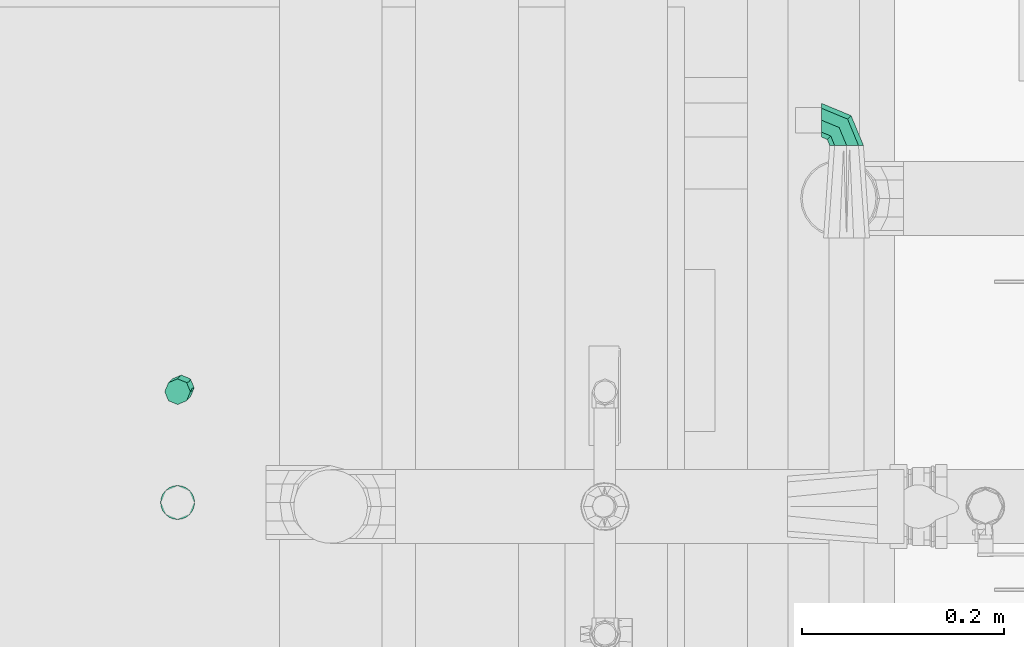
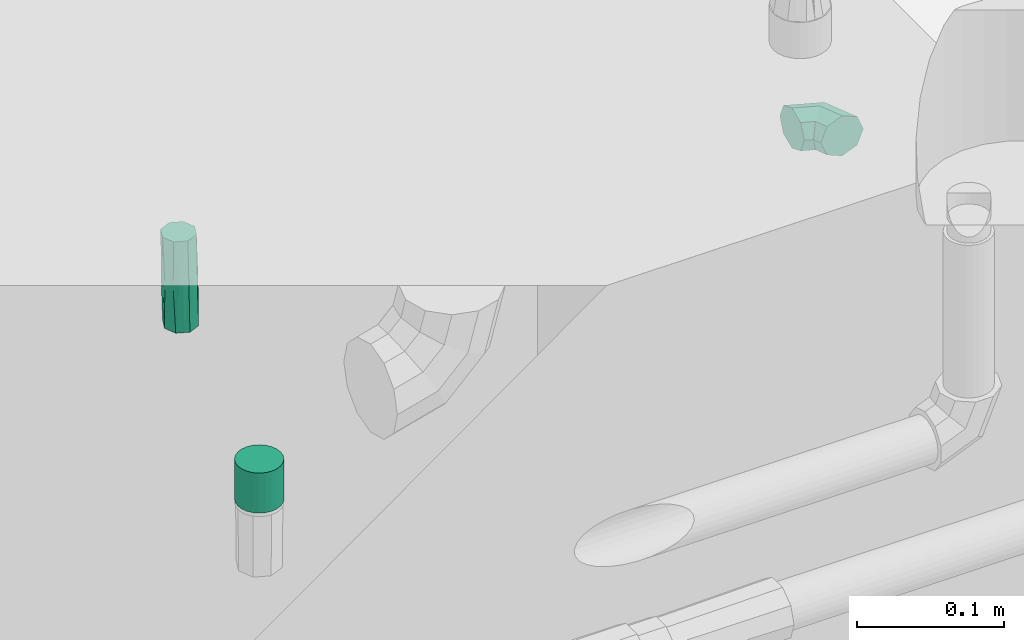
# One storey, part 37 of 43: 3 flow fittings.
"""IFC2X3 building model written with IfcOpenShell, lengths in millimetres."""

import ifcopenshell
import ifcopenshell.guid

model = None  # the IFC model being written
_history = None  # IfcOwnerHistory: only IFC2X3 demands one
_inside = {}  # id of a spatial element -> (the spatial element, [elements in it])
_under = {}  # id of a project, library or spatial element -> (it, [spatial elements below it])
_declared = {}  # id of a project -> (the project, [libraries it declares])
_typed = {}  # id of a type object -> (the type object, [elements of that type])
_made_of = {}  # id of a material, layer set ... -> (it, [elements and type objects made of it])


def new_model(schema):
    """Start an empty IFC model of exactly this schema.

    Asked for "IFC4X3", IfcOpenShell would pick the latest addendum, in which some entities
    have other attributes; the version numbers below select the first issue.
    IFC2X3 requires an IfcOwnerHistory on every rooted entity: one is made here for all.
    """
    global model, _history
    if schema == "IFC4X3":
        model = ifcopenshell.file(schema_version=(4, 3, 0, 0))
    else:
        model = ifcopenshell.file(schema=schema)
    _inside.clear()
    _under.clear()
    _declared.clear()
    _typed.clear()
    _made_of.clear()
    _history = None
    if model.schema == "IFC2X3":
        org = make("IfcOrganization", Name="unknown")
        user = make(
            "IfcPersonAndOrganization",
            ThePerson=make("IfcPerson", FamilyName="unknown"),
            TheOrganization=org,
        )
        app = make(
            "IfcApplication",
            ApplicationDeveloper=org,
            Version="unknown",
            ApplicationFullName="unknown",
            ApplicationIdentifier="unknown",
        )
        _history = make(
            "IfcOwnerHistory",
            OwningUser=user,
            OwningApplication=app,
            ChangeAction="ADDED",
            CreationDate=0,
        )
    return model


def make(cls, **values):
    """One entity of the class cls with the attributes given. An attribute that is None is left unset."""
    return model.create_entity(
        cls, **{name: value for name, value in values.items() if value is not None}
    )


def entity(cls, *values):
    """Any entity or typed value of the class cls, its attributes in the order of the schema. None: left unset."""
    e = model.create_entity(cls)
    for i, value in enumerate(values):
        if value is not None:
            e[i] = value
    return e


def rooted(cls, **values):
    """An entity with a GlobalId (a new one), such as an element, a storey or a relation."""
    return make(cls, GlobalId=ifcopenshell.guid.new(), OwnerHistory=_history, **values)


def si_unit(unit_type, name, prefix=None):
    """IfcSIUnit, for example si_unit("LENGTHUNIT", "METRE", prefix="MILLI")."""
    return make("IfcSIUnit", UnitType=unit_type, Prefix=prefix, Name=name)


def converted_unit(unit_type, name, factor, base, dimensions=None, offset=None):
    """IfcConversionBasedUnit, such as the inch: factor (a typed value) times the base unit."""
    return make(
        "IfcConversionBasedUnit"
        if offset is None
        else "IfcConversionBasedUnitWithOffset",
        ConversionOffset=offset,
        Dimensions=None
        if dimensions is None
        else entity("IfcDimensionalExponents", *dimensions),
        UnitType=unit_type,
        Name=name,
        ConversionFactor=make(
            "IfcMeasureWithUnit", ValueComponent=factor, UnitComponent=base
        ),
    )


def derived_unit(unit_type, elements):
    """IfcDerivedUnit: a product of units, each with its exponent."""
    return make(
        "IfcDerivedUnit",
        Elements=[
            make("IfcDerivedUnitElement", Unit=unit, Exponent=power)
            for unit, power in elements
        ],
        UnitType=unit_type,
    )


def assignment(units):
    """IfcUnitAssignment: the units of a project."""
    return None if units is None else make("IfcUnitAssignment", Units=units)


def point(xyz):
    """IfcCartesianPoint."""
    return None if xyz is None else make("IfcCartesianPoint", Coordinates=xyz)


def direction(xyz):
    """IfcDirection."""
    return None if xyz is None else make("IfcDirection", DirectionRatios=xyz)


def frame(location, z_axis=None, x_axis=None):
    """IfcAxis2Placement3D, a coordinate frame: its origin and axes. An axis left out is left unset."""
    return make(
        "IfcAxis2Placement3D",
        Location=point(location),
        Axis=direction(z_axis),
        RefDirection=direction(x_axis),
    )


def origin():
    """The frame at (0, 0, 0) with its axes left unset."""
    return frame((0.0, 0.0, 0.0))


def place(relative_to, where):
    """IfcLocalPlacement: puts the frame where relative to a parent placement (None: the world)."""
    return make(
        "IfcLocalPlacement", PlacementRelTo=relative_to, RelativePlacement=where
    )


def context(
    kind, dimensions, precision=None, world=None, true_north=None, identifier=None
):
    """IfcGeometricRepresentationContext, for example the 3D "Model" context."""
    return make(
        "IfcGeometricRepresentationContext",
        ContextIdentifier=identifier,
        ContextType=kind,
        CoordinateSpaceDimension=dimensions,
        Precision=precision,
        WorldCoordinateSystem=world,
        TrueNorth=true_north,
    )


def subcontext(parent, identifier, kind, view, scale=None):
    """IfcGeometricRepresentationSubContext, for example "Body" below "Model"."""
    return make(
        "IfcGeometricRepresentationSubContext",
        ContextIdentifier=identifier,
        ContextType=kind,
        ParentContext=parent,
        TargetScale=scale,
        TargetView=view,
    )


def project(units=None, contexts=None):
    """IfcProject with its units and contexts."""
    return rooted(
        "IfcProject",
        Name="project",
        RepresentationContexts=contexts,
        UnitsInContext=assignment(units),
    )


def spatial(cls, under=None, at=None, **own):
    """A site, building, storey or space (cls), placed at a placement, below another one or the project."""
    s = rooted(cls, ObjectPlacement=at, **own)
    if under is not None:
        _under.setdefault(under.id(), (under, []))[1].append(s)
    return s


def faces_of(points, faces, orient=None, outer=None):
    """IfcFace entities. A face is a list of loops; a loop is a list of indices into points, from 0.

    orient and outer hold one flag for each loop. By default every Orientation is true, the
    first loop of a face is its IfcFaceOuterBound and the others are IfcFaceBound.
    """
    made = []
    for i, loops in enumerate(faces):
        bounds = []
        for j, loop in enumerate(loops):
            is_outer = j == 0 if outer is None else outer[i][j]
            bounds.append(
                make(
                    "IfcFaceOuterBound" if is_outer else "IfcFaceBound",
                    Bound=make("IfcPolyLoop", Polygon=[points[k] for k in loop]),
                    Orientation=True if orient is None else orient[i][j],
                )
            )
        made.append(make("IfcFace", Bounds=bounds))
    return made


def faceted_brep(points, faces, orient=None, outer=None, voids=None):
    """IfcFacetedBrep: a solid bounded by flat faces; with voids (closed shells), ...WithVoids."""
    shared = [point(p) for p in points]
    hull = make("IfcClosedShell", CfsFaces=faces_of(shared, faces, orient, outer))
    if voids is None:
        return make("IfcFacetedBrep", Outer=hull)
    return make(
        "IfcFacetedBrepWithVoids",
        Outer=hull,
        Voids=[
            make(cls, CfsFaces=faces_of(shared, fs, o, b)) for cls, fs, o, b in voids
        ],
    )


def shape(context_of_items, identifier, shape_type, items):
    """IfcShapeRepresentation: the items that make up one representation, for example the "Body"."""
    return make(
        "IfcShapeRepresentation",
        ContextOfItems=context_of_items,
        RepresentationIdentifier=identifier,
        RepresentationType=shape_type,
        Items=items,
    )


def source(mapping_origin, context_of_items, identifier, shape_type, items):
    """IfcRepresentationMap: a shape defined once, which mapped items show again and again."""
    return make(
        "IfcRepresentationMap",
        MappingOrigin=mapping_origin,
        MappedRepresentation=shape(context_of_items, identifier, shape_type, items),
    )


def transform(
    local_origin,
    x_axis=None,
    y_axis=None,
    z_axis=None,
    scale=None,
    scale2=None,
    scale3=None,
    uniform=True,
):
    """IfcCartesianTransformationOperator3D, or its non-uniform kind. x_axis, y_axis, z_axis: its Axis1, 2, 3."""
    if uniform:
        return make(
            "IfcCartesianTransformationOperator3D",
            Axis1=direction(x_axis),
            Axis2=direction(y_axis),
            LocalOrigin=point(local_origin),
            Scale=scale,
            Axis3=direction(z_axis),
        )
    return make(
        "IfcCartesianTransformationOperator3DnonUniform",
        Axis1=direction(x_axis),
        Axis2=direction(y_axis),
        LocalOrigin=point(local_origin),
        Scale=scale,
        Axis3=direction(z_axis),
        Scale2=scale2,
        Scale3=scale3,
    )


def mapped(mapping_source, mapping_target):
    """IfcMappedItem: shows the shape of a source again, moved by a transform."""
    return make(
        "IfcMappedItem", MappingSource=mapping_source, MappingTarget=mapping_target
    )


def material(Name=None, Category=None):
    """IfcMaterial."""
    return make("IfcMaterial", Name=Name, Category=Category)


def material_list(materials):
    """IfcMaterialList."""
    return make("IfcMaterialList", Materials=materials)


def made_of(thing, what):
    """Note that an element or type object is made of a material, layer set ...; save() writes the relation."""
    if what is not None:
        _made_of.setdefault(what.id(), (what, []))[1].append(thing)
    return thing


def type_object(cls, material=None, **own):
    """A type object (cls), such as IfcWallType, which elements share."""
    return made_of(rooted(cls, **own), material)


def type_shapes(of_type, sources):
    """Give a type object the sources (RepresentationMaps) that its elements show as mapped items."""
    of_type.RepresentationMaps = sources


def element(
    cls,
    number,
    at=None,
    inside=None,
    cuts=None,
    type_object=None,
    material=None,
    context=None,
    identifier="Body",
    shape_type=None,
    held_by="IfcProductDefinitionShape",
    body=None,
    shapes=None,
    **own,
):
    """One element of the class cls, such as IfcWall. Its Tag is "e" and its number.

    at: its placement. inside: the storey or other place that contains it. cuts: it is an
    opening in that element (IfcRelVoidsElement). A single representation is given by context,
    identifier, shape_type and body (its items); several are given by shapes. held_by: the class
    of the entity that holds the representations. save() writes the other relations.
    """
    e = rooted(cls, Tag="e%d" % number, ObjectPlacement=at, **own)
    if body is not None:
        shapes = [shape(context, identifier, shape_type, body)]
    if shapes is not None:
        e.Representation = make(held_by, Representations=shapes)
    if inside is not None:
        _inside.setdefault(inside.id(), (inside, []))[1].append(e)
    if cuts is not None:
        rooted(
            "IfcRelVoidsElement", RelatingBuildingElement=cuts, RelatedOpeningElement=e
        )
    if type_object is not None:
        _typed.setdefault(type_object.id(), (type_object, []))[1].append(e)
    return made_of(e, material)


def aggregate(whole, parts):
    """IfcRelAggregates: a whole, such as a stair, and the parts it consists of."""
    return rooted("IfcRelAggregates", RelatingObject=whole, RelatedObjects=parts)


def save(model, path):
    """Write the relations noted so far, then the file.

    IfcRelAggregates (storeys below a building ...), IfcRelContainedInSpatialStructure (elements
    in a storey), IfcRelDefinesByType, IfcRelAssociatesMaterial and IfcRelDeclares: one each for
    every whole, place, type object, material and project.
    """
    for whole, parts in _under.values():
        aggregate(whole, parts)
    for where, things in _inside.values():
        rooted(
            "IfcRelContainedInSpatialStructure",
            RelatedElements=things,
            RelatingStructure=where,
        )
    for kind, things in _typed.values():
        rooted("IfcRelDefinesByType", RelatedObjects=things, RelatingType=kind)
    for what, things in _made_of.values():
        rooted("IfcRelAssociatesMaterial", RelatedObjects=things, RelatingMaterial=what)
    for by, libraries in _declared.values():
        rooted("IfcRelDeclares", RelatingContext=by, RelatedDefinitions=libraries)
    model.write(path)


model = new_model("IFC2X3")

# Units and contexts
model_context = context("Model", 3, precision=0.01, world=origin(), true_north=direction((6.123031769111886e-17, 1.0)))
body_context = subcontext(model_context, "Body", "Model", "MODEL_VIEW")
ifc_project = project(units=[si_unit("LENGTHUNIT", "METRE", prefix="MILLI"), si_unit("AREAUNIT", "SQUARE_METRE"), si_unit("VOLUMEUNIT", "CUBIC_METRE"), converted_unit("PLANEANGLEUNIT", "DEGREE", entity("IfcRatioMeasure", 0.017453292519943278), si_unit("PLANEANGLEUNIT", "RADIAN"), dimensions=[0, 0, 0, 0, 0, 0, 0]), si_unit("MASSUNIT", "GRAM", prefix="KILO"), derived_unit("MASSDENSITYUNIT", [(si_unit("MASSUNIT", "GRAM", prefix="KILO"), 1), (si_unit("LENGTHUNIT", "METRE"), -3)]), derived_unit("MOMENTOFINERTIAUNIT", [(si_unit("LENGTHUNIT", "METRE"), 4)]), si_unit("TIMEUNIT", "SECOND"), si_unit("FREQUENCYUNIT", "HERTZ"), si_unit("THERMODYNAMICTEMPERATUREUNIT", "DEGREE_CELSIUS"), derived_unit("THERMALTRANSMITTANCEUNIT", [(si_unit("MASSUNIT", "GRAM", prefix="KILO"), 1), (si_unit("THERMODYNAMICTEMPERATUREUNIT", "KELVIN"), -1), (si_unit("TIMEUNIT", "SECOND"), -3)]), derived_unit("VOLUMETRICFLOWRATEUNIT", [(si_unit("LENGTHUNIT", "METRE"), 3), (si_unit("TIMEUNIT", "SECOND"), -1)]), derived_unit("MASSFLOWRATEUNIT", [(si_unit("MASSUNIT", "GRAM", prefix="KILO"), 1), (si_unit("TIMEUNIT", "SECOND"), -1)]), derived_unit("ROTATIONALFREQUENCYUNIT", [(si_unit("TIMEUNIT", "SECOND"), -1)]), si_unit("ELECTRICCURRENTUNIT", "AMPERE"), si_unit("ELECTRICVOLTAGEUNIT", "VOLT"), si_unit("POWERUNIT", "WATT"), si_unit("FORCEUNIT", "NEWTON", prefix="KILO"), si_unit("ILLUMINANCEUNIT", "LUX"), si_unit("LUMINOUSFLUXUNIT", "LUMEN"), si_unit("LUMINOUSINTENSITYUNIT", "CANDELA"), derived_unit("USERDEFINED", [(si_unit("MASSUNIT", "GRAM", prefix="KILO"), -1), (si_unit("LENGTHUNIT", "METRE"), -2), (si_unit("TIMEUNIT", "SECOND"), 3), (si_unit("LUMINOUSFLUXUNIT", "LUMEN"), 1)]), derived_unit("SOUNDPOWERUNIT", [(si_unit("MASSUNIT", "GRAM", prefix="KILO"), 1), (si_unit("LENGTHUNIT", "METRE"), 2), (si_unit("TIMEUNIT", "SECOND"), -3)]), derived_unit("SOUNDPRESSUREUNIT", [(si_unit("MASSUNIT", "GRAM", prefix="KILO"), 1), (si_unit("LENGTHUNIT", "METRE"), -1), (si_unit("TIMEUNIT", "SECOND"), -2)]), derived_unit("LINEARVELOCITYUNIT", [(si_unit("LENGTHUNIT", "METRE"), 1), (si_unit("TIMEUNIT", "SECOND"), -1)]), si_unit("PRESSUREUNIT", "PASCAL"), derived_unit("USERDEFINED", [(si_unit("LENGTHUNIT", "METRE"), -2), (si_unit("MASSUNIT", "GRAM", prefix="KILO"), 1), (si_unit("TIMEUNIT", "SECOND"), -2)]), derived_unit("LINEARFORCEUNIT", [(si_unit("MASSUNIT", "GRAM", prefix="KILO"), 1), (si_unit("LENGTHUNIT", "METRE"), 1), (si_unit("TIMEUNIT", "SECOND"), -2), (si_unit("LENGTHUNIT", "METRE"), -1)]), derived_unit("PLANARFORCEUNIT", [(si_unit("MASSUNIT", "GRAM", prefix="KILO"), 1), (si_unit("LENGTHUNIT", "METRE"), 1), (si_unit("TIMEUNIT", "SECOND"), -2), (si_unit("LENGTHUNIT", "METRE"), -2)])], contexts=[model_context])

# Site, building, storey
site_placement = place(None, origin())
site = spatial("IfcSite", under=ifc_project, at=site_placement, Name="Default", CompositionType="ELEMENT")
building_placement = place(site_placement, origin())
building = spatial("IfcBuilding", under=site, at=building_placement, CompositionType="ELEMENT")
storey_placement = place(building_placement, frame((0.0, 0.0, 270.0)))
storey = spatial("IfcBuildingStorey", under=building, at=storey_placement, Name="Niveau 0", CompositionType="ELEMENT", Elevation=270.0)

# Flow fittings
ifc_material = material(Name="<Unnamed>")
pipe_fitting_type_1 = type_object("IfcPipeFittingType", Name="Transformation - Générique:Standard", PredefinedType="NOTDEFINED", material=ifc_material)
shared_shape_1 = source(origin(), body_context, "Body", "Brep", [
    faceted_brep([(79.44531250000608, -3.750000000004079, -16.45898437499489), (79.4453125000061, -1.5033477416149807, -15.528390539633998), (79.4453125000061, 0.7433045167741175, -14.597796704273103), (79.44531250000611, 2.9899567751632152, -13.667202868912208), (79.44531250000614, 5.2366090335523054, -12.736609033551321), (79.44531250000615, 6.167202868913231, -10.489956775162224), (79.44531250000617, 7.097796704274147, -8.243304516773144), (79.4453125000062, 8.028390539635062, -5.996652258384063), (79.44531250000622, 8.95898437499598, -3.7499999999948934), (79.44531250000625, 7.657291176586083, -0.6074346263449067), (79.44531250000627, 7.097796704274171, 0.7433045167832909), (79.44531250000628, 6.167202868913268, 2.9899567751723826), (79.44531250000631, 5.236609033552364, 5.236609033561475), (79.44531250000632, 2.989956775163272, 6.1672028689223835), (79.44531250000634, 0.7433045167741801, 7.097796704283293), (79.44531250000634, -1.5033477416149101, 8.0283905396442), (79.44531250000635, -3.750000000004, 8.958984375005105), (79.44531250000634, -5.9966522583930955, 8.028390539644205), (79.44531250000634, -8.24330451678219, 7.097796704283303), (79.44531250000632, -10.489956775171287, 6.167202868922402), (79.44531250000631, -12.736609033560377, 5.2366090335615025), (79.44531250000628, -13.667202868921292, 2.9899567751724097), (79.44531250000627, -14.597796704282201, 0.7433045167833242), (79.44531250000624, -15.528390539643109, -1.503347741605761), (79.44531250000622, -16.45898437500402, -3.749999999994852), (79.44531250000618, -15.157291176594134, -6.892565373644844), (79.44531250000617, -14.597796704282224, -8.243304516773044), (79.44531250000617, -13.667202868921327, -10.48995677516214), (79.44531250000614, -12.73660903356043, -12.736609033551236), (79.44531250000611, -10.489956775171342, -13.667202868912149), (79.4453125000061, -8.243304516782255, -14.597796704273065), (79.4453125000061, -5.996652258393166, -15.528390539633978), (0.0, -12.708984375, 0.0), (0.0, -11.77839053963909, 2.246652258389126), (0.0, -10.84779670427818, 4.493304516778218), (0.0, -9.91720286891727, 6.739956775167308), (0.0, -8.986609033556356, 8.986609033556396), (0.0, -6.739956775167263, 9.917202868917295), (0.0, -4.49330451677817, 10.847796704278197), (0.0, -2.246652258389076, 11.778390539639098), (0.0, 0.0, 12.708984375), (0.0, 2.24665225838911, 11.77839053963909), (0.0, 4.493304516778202, 10.847796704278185), (0.0, 6.739956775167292, 9.917202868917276), (0.0, 8.986609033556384, 8.986609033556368), (0.0, 9.917202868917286, 6.7399567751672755), (0.0, 10.84779670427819, 4.493304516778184), (0.0, 11.778390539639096, 2.246652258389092), (0.0, 12.708984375, 0.0), (0.0, 11.778390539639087, -2.246652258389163), (0.0, 10.847796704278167, -4.493304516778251), (0.0, 9.91720286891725, -6.739956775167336), (0.0, 8.986609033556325, -8.986609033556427), (0.0, 6.739956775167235, -9.917202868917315), (0.0, 4.493304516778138, -10.847796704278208), (0.0, 2.246652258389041, -11.778390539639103), (0.0, 0.0, -12.708984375), (0.0, -2.2466522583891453, -11.778390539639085), (0.0, -4.493304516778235, -10.847796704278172), (0.0, -6.739956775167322, -9.917202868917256), (0.0, -8.986609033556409, -8.986609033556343), (0.0, -9.917202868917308, -6.739956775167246), (0.0, -10.847796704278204, -4.493304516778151), (0.0, -11.778390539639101, -2.246652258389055), (39.722656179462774, -9.937494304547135, -11.699177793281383), (39.72265658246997, -12.808188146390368, -8.354481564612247), (39.72265727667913, -13.883025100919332, -6.037405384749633), (28.128839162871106, -14.036729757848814, -1.327745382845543), (39.722656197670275, -6.145724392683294, -13.844928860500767), (39.72265630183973, -3.6792020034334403, -14.455267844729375), (39.72265622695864, -0.6293016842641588, -14.522787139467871), (39.72265623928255, 7.949177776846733, -9.937494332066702), (39.72265625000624, -14.58398437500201, -1.8749999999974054), (39.72265623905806, 10.286739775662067, -5.564223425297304), (39.72265625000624, 10.83398437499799, -1.8749999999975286), (39.72265627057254, 5.744829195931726, -12.046356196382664), (44.31326055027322, 9.11663657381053, -8.082660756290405), (39.72265623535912, 3.5691596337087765, -13.358876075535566), (28.128839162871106, 11.381238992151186, -1.327745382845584), (39.72265617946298, 6.187494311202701, 7.9491777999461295), (39.72265658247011, 9.058188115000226, 4.60448153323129), (39.72265727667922, 10.133025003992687, 2.2874052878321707), (39.72265619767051, 2.395724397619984, 10.094928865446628), (39.72265630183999, -0.07079800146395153, 10.705267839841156), (39.722656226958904, -3.120698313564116, 10.772787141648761), (39.72265623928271, -11.699177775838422, 6.187494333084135), (39.72265623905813, -14.036739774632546, 1.814223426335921), (39.72265627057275, -9.494829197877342, 8.296356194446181), (44.313260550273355, -13.300010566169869, 3.8992867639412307), (39.72265623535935, -7.319159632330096, 9.608876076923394)], [[[0, 1, 2, 3, 4, 5, 6, 7, 8, 9, 10, 11, 12, 13, 14, 15, 16, 17, 18, 19, 20, 21, 22, 23, 24, 25, 26, 27, 28, 29, 30, 31]], [[32, 33, 34, 35, 36, 37, 38, 39, 40, 41, 42, 43, 44, 45, 46, 47, 48, 49, 50, 51, 52, 53, 54, 55, 56, 57, 58, 59, 60, 61, 62, 63]], [[64, 29, 28]], [[62, 65, 66]], [[66, 67, 63]], [[65, 64, 28]], [[25, 66, 26]], [[68, 57, 69]], [[70, 69, 56]], [[65, 60, 64]], [[71, 5, 4]], [[63, 67, 32]], [[25, 24, 72, 67]], [[0, 69, 70]], [[7, 73, 74]], [[62, 61, 60, 65]], [[29, 64, 68]], [[50, 49, 73]], [[71, 75, 52]], [[27, 26, 65, 28]], [[66, 65, 26]], [[4, 75, 71]], [[5, 71, 76]], [[70, 1, 0]], [[77, 53, 75]], [[1, 70, 77]], [[68, 59, 58, 57]], [[68, 64, 59]], [[76, 51, 50]], [[73, 76, 50]], [[77, 55, 54, 53]], [[77, 70, 55]], [[75, 4, 3]], [[75, 3, 77]], [[69, 0, 31]], [[69, 31, 68]], [[25, 67, 66]], [[63, 62, 66]], [[64, 60, 59]], [[71, 52, 51]], [[70, 56, 55]], [[77, 3, 2, 1]], [[53, 52, 75]], [[68, 31, 30, 29]], [[57, 56, 69]], [[49, 48, 78, 74]], [[8, 7, 74]], [[5, 76, 6]], [[7, 6, 73]], [[76, 71, 51]], [[6, 76, 73]], [[49, 74, 73]], [[79, 13, 12]], [[46, 80, 81]], [[81, 78, 47]], [[80, 79, 12]], [[9, 81, 10]], [[82, 41, 83]], [[84, 83, 40]], [[80, 44, 79]], [[85, 21, 20]], [[47, 78, 48]], [[9, 8, 74, 78]], [[16, 83, 84]], [[23, 86, 72]], [[46, 45, 44, 80]], [[13, 79, 82]], [[34, 33, 86]], [[85, 87, 36]], [[11, 10, 80, 12]], [[81, 80, 10]], [[20, 87, 85]], [[21, 85, 88]], [[84, 17, 16]], [[89, 37, 87]], [[17, 84, 89]], [[82, 43, 42, 41]], [[82, 79, 43]], [[88, 35, 34]], [[86, 88, 34]], [[89, 39, 38, 37]], [[89, 84, 39]], [[87, 20, 19]], [[87, 19, 89]], [[83, 16, 15]], [[83, 15, 82]], [[9, 78, 81]], [[47, 46, 81]], [[79, 44, 43]], [[85, 36, 35]], [[84, 40, 39]], [[89, 19, 18, 17]], [[37, 36, 87]], [[82, 15, 14, 13]], [[41, 40, 83]], [[33, 32, 67, 72]], [[24, 23, 72]], [[21, 88, 22]], [[23, 22, 86]], [[88, 85, 35]], [[22, 88, 86]], [[33, 72, 86]]]),
])
type_shapes(pipe_fitting_type_1, [shared_shape_1])
flow_fitting_1_placement = place(storey_placement, frame((-2654.7926409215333, -9501.311926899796, 1420.5546874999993), z_axis=(-1.0, 0.0, 0.0), x_axis=(0.0, 0.0, -1.0)))
element("IfcFlowFitting", 1, at=flow_fitting_1_placement, inside=storey, type_object=pipe_fitting_type_1, material=ifc_material, Name="Transformation - Générique:Standard", ObjectType="Transformation - Générique:Standard", context=body_context, shape_type="MappedRepresentation", body=[
    mapped(shared_shape_1, transform((0.0, 0.0, 0.0), scale=1.0)),
])
pipe_fitting_type_2 = type_object("IfcPipeFittingType", Name="Piquage Acier Noir droit:Longueur = 25", PredefinedType="NOTDEFINED", material=ifc_material)
shared_shape_2 = source(origin(), body_context, "Body", "Brep", [
    faceted_brep([(-8.30233938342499, 0.0, -16.85000000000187), (-8.302339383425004, -4.361100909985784, -16.275850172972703), (-8.302339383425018, -8.425000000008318, -14.592528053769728), (-8.302339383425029, -11.914749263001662, -11.914749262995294), (-8.30233938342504, -14.592528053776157, -8.425000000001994), (-8.302339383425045, -16.275850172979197, -4.3611009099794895), (-8.302339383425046, -16.850000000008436, 0.0), (-8.302339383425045, -16.27585017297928, 4.361100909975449), (-8.30233938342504, -14.592528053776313, 8.424999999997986), (-8.302339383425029, -11.914749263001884, 11.914749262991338), (-8.302339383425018, -8.425000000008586, 14.59252805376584), (-8.302339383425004, -4.361100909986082, 16.275850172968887), (-8.30233938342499, 0.0, 16.849999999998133), (-8.302339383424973, 4.361100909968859, 16.275850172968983), (-8.302339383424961, 8.4249999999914, 14.59252805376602), (-8.302339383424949, 11.914749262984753, 11.9147492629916), (-8.30233938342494, 14.592528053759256, 8.42499999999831), (-8.302339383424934, 16.275850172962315, 4.361100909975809), (-8.302339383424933, 16.849999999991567, 0.0), (-8.302339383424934, 16.275850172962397, -4.361100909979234), (-8.30233938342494, 14.592528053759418, -8.425000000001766), (-8.302339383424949, 11.914749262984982, -11.914749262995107), (-8.302339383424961, 8.424999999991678, -14.592528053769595), (-8.302339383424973, 4.361100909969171, -16.275850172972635), (0.0, -16.275850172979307, 4.361100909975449), (0.0, -16.850000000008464, 0.0), (25.0, -16.850000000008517, 0.0), (25.0, -16.27585017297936, 4.361100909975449), (0.0, -14.592528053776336, 8.424999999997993), (25.0, -14.592528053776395, 8.424999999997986), (0.0, -11.914749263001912, 11.914749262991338), (25.0, -11.914749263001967, 11.914749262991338), (25.0, -8.425000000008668, 14.59252805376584), (0.0, -8.425000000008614, 14.59252805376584), (25.0, -4.361100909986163, 16.275850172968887), (0.0, -4.361100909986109, 16.275850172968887), (25.0, 0.0, 16.849999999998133), (0.0, 0.0, 16.849999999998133), (0.0, 8.424999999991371, 14.59252805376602), (0.0, 4.3611009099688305, 16.275850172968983), (25.0, 4.361100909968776, 16.275850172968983), (25.0, 8.424999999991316, 14.59252805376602), (0.0, 11.914749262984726, 11.9147492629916), (25.0, 11.914749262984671, 11.9147492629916), (0.0, 14.59252805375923, 8.42499999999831), (25.0, 14.592528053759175, 8.42499999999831), (25.0, 16.27585017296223, 4.361100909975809), (0.0, 16.275850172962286, 4.361100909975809), (25.0, 16.849999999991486, 0.0), (0.0, 16.84999999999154, 0.0), (0.0, 16.27585017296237, -4.361100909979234), (25.0, 16.275850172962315, -4.361100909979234), (0.0, 14.592528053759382, -8.425000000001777), (25.0, 14.592528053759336, -8.425000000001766), (0.0, 11.914749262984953, -11.914749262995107), (25.0, 11.914749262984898, -11.914749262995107), (25.0, 8.424999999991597, -14.592528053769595), (0.0, 8.42499999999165, -14.592528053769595), (25.0, 4.361100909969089, -16.275850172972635), (0.0, 4.361100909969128, -16.27585017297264), (25.0, 0.0, -16.85000000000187), (0.0, 0.0, -16.85000000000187), (0.0, -8.425000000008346, -14.592528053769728), (0.0, -4.3611009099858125, -16.275850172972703), (25.0, -4.361100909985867, -16.275850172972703), (25.0, -8.425000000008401, -14.592528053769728), (0.0, -11.91474926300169, -11.914749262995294), (25.0, -11.914749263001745, -11.914749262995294), (0.0, -14.592528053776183, -8.425000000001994), (25.0, -14.592528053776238, -8.425000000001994), (25.0, -16.27585017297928, -4.3611009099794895), (0.0, -16.275850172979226, -4.3611009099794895)], [[[0, 1, 2, 3, 4, 5, 6, 7, 8, 9, 10, 11, 12, 13, 14, 15, 16, 17, 18, 19, 20, 21, 22, 23]], [[24, 7, 6, 25, 26, 27]], [[28, 8, 7, 24, 27, 29]], [[9, 30, 31, 32, 33, 10]], [[28, 29, 31, 30, 9, 8]], [[10, 33, 32, 34, 35, 11]], [[11, 35, 34, 36, 37, 12]], [[38, 14, 13, 39, 40, 41]], [[42, 15, 14, 38, 41, 43]], [[16, 44, 45, 46, 47, 17]], [[42, 43, 45, 44, 16, 15]], [[17, 47, 46, 48, 49, 18]], [[13, 12, 37, 36, 40, 39]], [[50, 19, 18, 49, 48, 51]], [[52, 20, 19, 50, 51, 53]], [[21, 54, 55, 56, 57, 22]], [[52, 53, 55, 54, 21, 20]], [[22, 57, 56, 58, 59, 23]], [[23, 59, 58, 60, 61, 0]], [[62, 2, 1, 63, 64, 65]], [[66, 3, 2, 62, 65, 67]], [[4, 68, 69, 70, 71, 5]], [[66, 67, 69, 68, 4, 3]], [[5, 71, 70, 26, 25, 6]], [[1, 0, 61, 60, 64, 63]], [[58, 56, 55, 53, 51, 48, 46, 45, 43, 41, 40, 36, 34, 32, 31, 29, 27, 26, 70, 69, 67, 65, 64, 60]]]),
])
type_shapes(pipe_fitting_type_2, [shared_shape_2])
flow_fitting_2_placement = place(storey_placement, frame((-2654.7691832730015, -9611.0, 1289.9874999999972), z_axis=(0.0, -1.0, 0.0), x_axis=(0.0, 0.0, -1.0)))
element("IfcFlowFitting", 2, at=flow_fitting_2_placement, inside=storey, type_object=pipe_fitting_type_2, material=ifc_material, Name="Piquage Acier Noir droit:Longueur = 25", ObjectType="Piquage Acier Noir droit:Longueur = 25", context=body_context, shape_type="MappedRepresentation", body=[
    mapped(shared_shape_2, transform((0.0, 0.0, 0.0), scale=1.0)),
])
ifc_material_list_1 = material_list([ifc_material, ifc_material])
ifc_material_list_2 = material_list([ifc_material, ifc_material])
pipe_fitting_type_3 = type_object("IfcPipeFittingType", Name="Coude - Générique:Standard", PredefinedType="NOTDEFINED", material=ifc_material_list_2)
shared_shape_3 = source(origin(), body_context, "Body", "Brep", [
    faceted_brep([(4.486352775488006, -4.486352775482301, 0.0), (1.0276695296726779, -1.0276695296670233, -11.808683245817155), (11.808683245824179, 25.0, -11.808683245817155), (16.70000000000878, 25.0, 0.0), (-7.322330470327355, 7.322330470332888, -16.700000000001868), (0.0, 25.0, -16.700000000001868), (-15.672330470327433, 15.672330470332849, -11.808683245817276), (-11.808683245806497, 25.0, -11.808683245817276), (-19.131013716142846, 19.13101371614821, 0.0), (-16.699999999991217, 25.0, 0.0), (-15.672330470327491, 15.672330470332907, 11.808683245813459), (-11.808683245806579, 25.0, 11.808683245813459), (-7.322330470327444, 7.322330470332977, 16.699999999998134), (0.0, 25.0, 16.699999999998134), (1.0276695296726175, -1.027669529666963, 11.808683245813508), (11.808683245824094, 25.0, 11.808683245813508), (-25.0, -16.700000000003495, 0.0), (-25.0, -11.808683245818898, -11.808683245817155), (-25.0, 0.0, -16.700000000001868), (-25.0, 11.808683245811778, -11.808683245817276), (-25.0, 16.699999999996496, 0.0), (-25.0, 11.80868324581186, 11.808683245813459), (-25.0, 0.0, 16.699999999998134), (-25.0, -11.808683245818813, 11.808683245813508)], [[[0, 1, 2, 3]], [[1, 4, 5, 2]], [[4, 6, 7, 5]], [[6, 8, 9, 7]], [[8, 10, 11, 9]], [[10, 12, 13, 11]], [[12, 14, 15, 13]], [[14, 0, 3, 15]], [[16, 17, 1, 0]], [[17, 18, 4, 1]], [[18, 19, 6, 4]], [[19, 20, 8, 6]], [[20, 21, 10, 8]], [[21, 22, 12, 10]], [[22, 23, 14, 12]], [[23, 16, 0, 14]], [[3, 2, 5, 7, 9, 11, 13, 15]], [[23, 22, 21, 20, 19, 18, 17, 16]]]),
])
type_shapes(pipe_fitting_type_3, [shared_shape_3])
flow_fitting_3_placement = place(storey_placement, frame((-1992.6000093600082, -9232.500000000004, 1120.500000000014), z_axis=(0.0, 0.0, 1.0), x_axis=(0.0, 1.0, 0.0)))
element("IfcFlowFitting", 3, at=flow_fitting_3_placement, inside=storey, type_object=pipe_fitting_type_3, material=ifc_material_list_1, Name="Coude - Générique:Standard", ObjectType="Coude - Générique:Standard", context=body_context, shape_type="MappedRepresentation", body=[
    mapped(shared_shape_3, transform((0.0, 0.0, 0.0), scale=1.0)),
])

save(model, "model.ifc")
